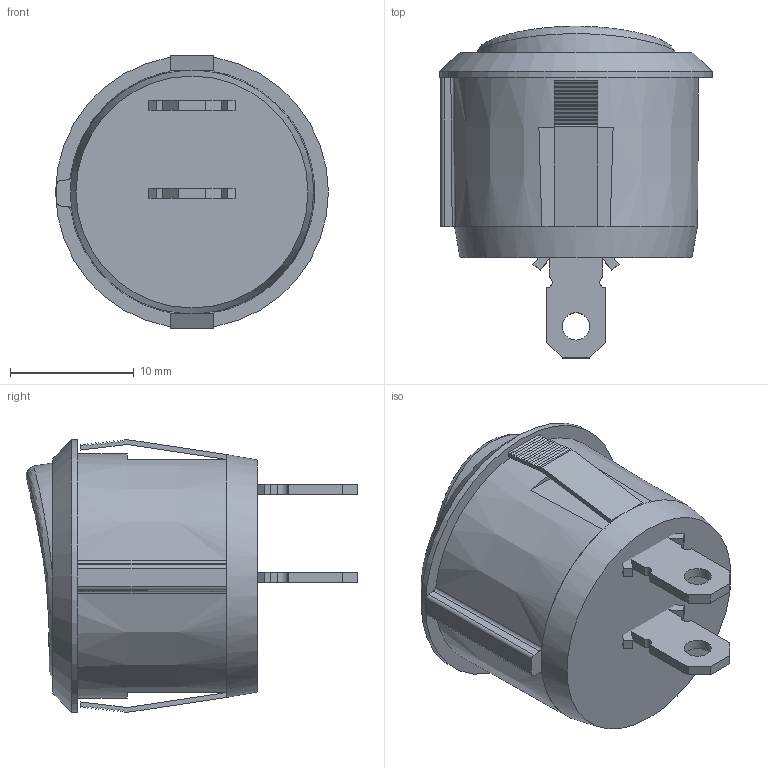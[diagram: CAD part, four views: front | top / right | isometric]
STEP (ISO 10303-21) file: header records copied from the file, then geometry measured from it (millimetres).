
FILE_DESCRIPTION(/* description */ (''),/* implementation_level */ '2;1');
FILE_NAME(/* name */ 'C:\Users\Hani\Desktop\work\RA1-1A-DC-2-B-2\RA1-1A-DC-2-B-2.stp',/* time_stamp */ '2020-07-19T17:05:50-07:00',/* author */ ('Hani'),/* organization */ (''),/* preprocessor_version */ 'ST-DEVELOPER v17',/* originating_system */ 'Autodesk Inventor 2019',/* authorisation */ '');
FILE_SCHEMA (('AUTOMOTIVE_DESIGN { 1 0 10303 214 3 1 1 }'));
Length unit declared in the file: inch
Products named in the file (4): RA1-1A-DC-2-B-2; RA1-1A-DC-2-B-2_1; .187 terminal; Botton, Rocker Switch
Assembly tree (4 placements, depth 2):
  RA1-1A-DC-2-B-2
    RA1-1A-DC-2-B-2_1
    .187 terminal  x2
    Botton, Rocker Switch
Bounding box: 22 x 26.76 x 22.01 mm (x, y, z)
Volume: 5183.5 mm3; surface area: 3164.8 mm2
Topology: 4 solids, 4 shells, 221 faces, 600 edges, 396 vertices
Faces by surface type: plane 165, bspline 34, cylinder 19, cone 3
Full cylindrical faces by diameter (mm): 1.587 x1, 2.21 x2, 18.25 x1, 22 x1
Entity records: 7804 total; most frequent: CARTESIAN_POINT 2709, ORIENTED_EDGE 1102, DIRECTION 888, EDGE_CURVE 551, LINE 408, VECTOR 408, VERTEX_POINT 364, AXIS2_PLACEMENT_3D 240
